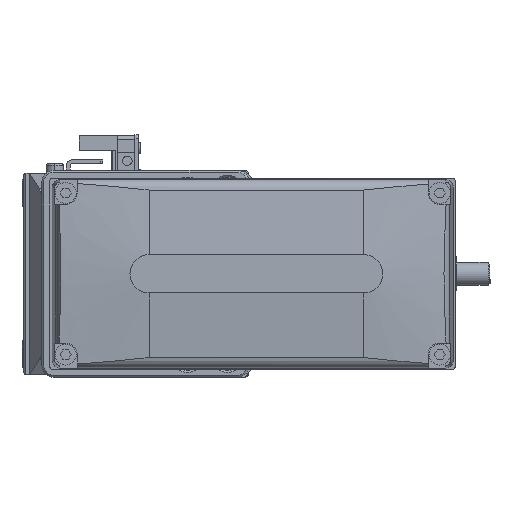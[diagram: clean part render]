
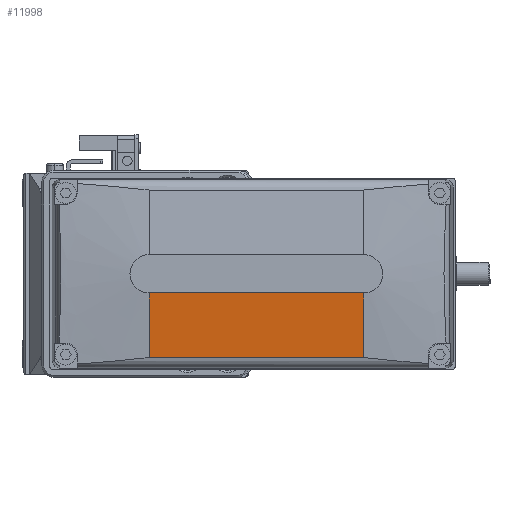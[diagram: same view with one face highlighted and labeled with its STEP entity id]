
A CAD part, left-side view. The second image highlights one B-rep face of the part: STEP entity #11998.
In plain terms, the highlighted planar face has unit normal (-0.996, 0, -0.087).
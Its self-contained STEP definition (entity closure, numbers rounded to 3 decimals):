
#1060 = VECTOR ( 'NONE', #24540, 1000. ) ;
#2494 = CARTESIAN_POINT ( 'NONE',  ( -50., -28., -5. ) ) ;
#4562 = LINE ( 'NONE', #29622, #1060 ) ;
#6029 = VERTEX_POINT ( 'NONE', #9787 ) ;
#6694 = VECTOR ( 'NONE', #21996, 1000. ) ;
#7068 = ORIENTED_EDGE ( 'NONE', *, *, #11954, .T. ) ;
#8005 = EDGE_CURVE ( 'NONE', #9918, #12039, #29956, .T. ) ;
#8846 = FACE_OUTER_BOUND ( 'NONE', #31745, .T. ) ;
#9787 = CARTESIAN_POINT ( 'NONE',  ( -50., 28., -5. ) ) ;
#9918 = VERTEX_POINT ( 'NONE', #2494 ) ;
#10106 = ORIENTED_EDGE ( 'NONE', *, *, #27852, .F. ) ;
#10583 = DIRECTION ( 'NONE',  ( -0.087, 0., 0.996 ) ) ;
#11954 = EDGE_CURVE ( 'NONE', #9918, #6029, #4562, .T. ) ;
#11998 = ADVANCED_FACE ( 'NONE', ( #8846 ), #35697, .T. ) ;
#12039 = VERTEX_POINT ( 'NONE', #25346 ) ;
#13561 = LINE ( 'NONE', #16596, #34838 ) ;
#16033 = VERTEX_POINT ( 'NONE', #19619 ) ;
#16524 = CARTESIAN_POINT ( 'NONE',  ( 43606.406, -28., -499000. ) ) ;
#16596 = CARTESIAN_POINT ( 'NONE',  ( -48.525, 128., -21.861 ) ) ;
#17316 = VECTOR ( 'NONE', #22117, 1000. ) ;
#19619 = CARTESIAN_POINT ( 'NONE',  ( -48.525, 28., -21.861 ) ) ;
#20237 = AXIS2_PLACEMENT_3D ( 'NONE', #32811, #24322, #10583 ) ;
#21996 = DIRECTION ( 'NONE',  ( -0.087, 0., 0.996 ) ) ;
#22117 = DIRECTION ( 'NONE',  ( 0.087, 0., -0.996 ) ) ;
#24322 = DIRECTION ( 'NONE',  ( -0.996, 0., -0.087 ) ) ;
#24540 = DIRECTION ( 'NONE',  ( 0., 1., 0. ) ) ;
#25346 = CARTESIAN_POINT ( 'NONE',  ( -48.525, -28., -21.861 ) ) ;
#25957 = ORIENTED_EDGE ( 'NONE', *, *, #8005, .F. ) ;
#26727 = ORIENTED_EDGE ( 'NONE', *, *, #34094, .F. ) ;
#27852 = EDGE_CURVE ( 'NONE', #12039, #16033, #13561, .T. ) ;
#28814 = LINE ( 'NONE', #30348, #6694 ) ;
#29622 = CARTESIAN_POINT ( 'NONE',  ( -50., 128., -5. ) ) ;
#29956 = LINE ( 'NONE', #16524, #17316 ) ;
#30348 = CARTESIAN_POINT ( 'NONE',  ( 43606.406, 28., -499000. ) ) ;
#31745 = EDGE_LOOP ( 'NONE', ( #26727, #10106, #25957, #7068 ) ) ;
#32811 = CARTESIAN_POINT ( 'NONE',  ( -50., 128., -5. ) ) ;
#33595 = DIRECTION ( 'NONE',  ( 0., 1., 0. ) ) ;
#34094 = EDGE_CURVE ( 'NONE', #16033, #6029, #28814, .T. ) ;
#34838 = VECTOR ( 'NONE', #33595, 1000. ) ;
#35697 = PLANE ( 'NONE',  #20237 ) ;
